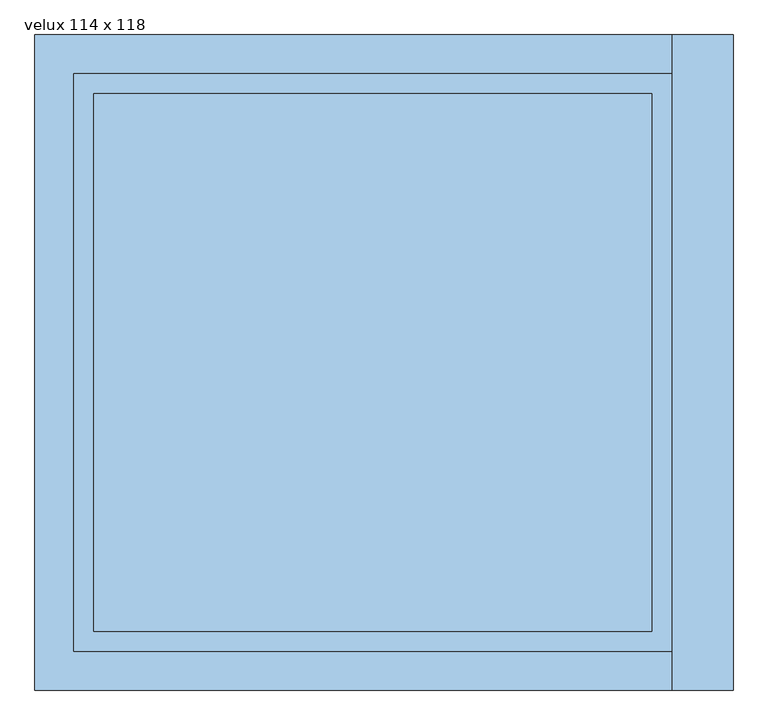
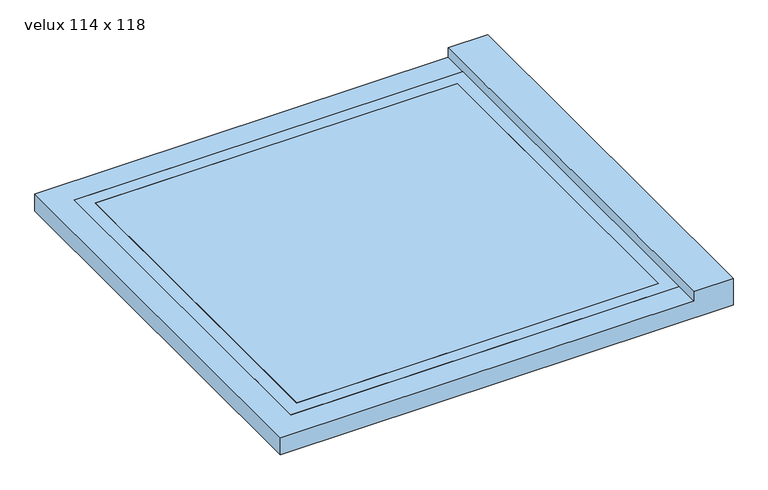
"""IFC4 building model written with IfcOpenShell, lengths in millimetres: window geometry, FR_Fenetre de Toit : velux 114 x 118."""

from ifc_helpers import new_model, si_unit, frame, origin, place, context, project, spatial, polyline, outline, extrude, faceted_brep, source, transform, mapped, element, save


def velux_114_x_118_b14f580e(model_context):
    return source(origin(), model_context, "Body", "SolidModel", [
        extrude(outline(polyline([(-550.0, 530.0), (550.0, 530.0), (550.0, -530.0), (-550.0, -530.0), (-550.0, 530.0)])), frame((0.0, 0.0, 3726.7088296), z_axis=(0.0, 0.0, 1.0), x_axis=(1.0, 0.0, 0.0)), (0.0, 0.0, 1.0), 11.2911704),
        extrude(outline(polyline([(-590.0, -570.0), (-590.0, 570.0), (590.0, 570.0), (590.0, -570.0), (-590.0, -570.0)]), holes=[polyline([(550.0, 530.0), (-550.0, 530.0), (-550.0, -530.0), (550.0, -530.0), (550.0, 530.0)])]), frame((0.0, 0.0, 3732.6), z_axis=(0.0, 0.0, 1.0), x_axis=(1.0, 0.0, 0.0)), (0.0, 0.0, 1.0), 5.4),
        faceted_brep([(710.0, -646.2, 3768.0), (710.0, 646.2, 3768.0), (590.0, 646.2, 3768.0), (590.0, -646.2, 3768.0), (710.0, -646.2, 3682.6), (710.0, 646.2, 3682.6), (-666.2, 646.2, 3682.6), (-666.2, 646.2, 3738.0), (590.0, 646.2, 3738.0), (590.0, 570.0, 3738.0), (590.0, 570.0, 3732.6), (590.0, 570.0, 3682.6), (590.0, -570.0, 3682.6), (590.0, -570.0, 3732.6), (590.0, -570.0, 3738.0), (590.0, -646.2, 3738.0), (-666.2, -646.2, 3738.0), (-666.2, -646.2, 3682.6), (-590.0, -570.0, 3738.0), (-590.0, 570.0, 3738.0), (-590.0, 570.0, 3682.6), (-590.0, -570.0, 3682.6), (-590.0, 570.0, 3732.6), (-590.0, -570.0, 3732.6)], [[[0, 1, 2, 3]], [[1, 0, 4, 5]], [[2, 1, 5, 6, 7, 8]], [[3, 2, 8, 9, 10, 11, 12, 13, 14, 15]], [[0, 3, 15, 16, 17, 4]], [[7, 16, 15, 14, 18, 19, 9, 8]], [[6, 5, 4, 17], [20, 21, 12, 11]], [[16, 7, 6, 17]], [[9, 19, 22, 20, 11, 10]], [[18, 14, 13, 12, 21, 23]], [[19, 18, 23, 21, 20, 22]]]),
    ])


if __name__ == "__main__":
    model = new_model("IFC4")
    model_context = context("Model", 3, world=origin())
    ifc_project = project(units=[si_unit("LENGTHUNIT", "METRE", prefix="MILLI")], contexts=[model_context])
    site = spatial("IfcSite", under=ifc_project)
    building = spatial("IfcBuilding", under=site)
    placement = place(None, origin())
    velux_114_x_118_shape = velux_114_x_118_b14f580e(model_context)
    element("IfcWindow", 1, ObjectType="FR_Fenetre de Toit : velux 114 x 118", at=placement, inside=building, context=model_context, shape_type="MappedRepresentation", body=[
        mapped(velux_114_x_118_shape, transform((0.0, 0.0, 0.0), x_axis=(1.0, 0.0, 0.0), y_axis=(0.0, 1.0, 0.0), z_axis=(0.0, 0.0, 1.0))),
    ])
    save(model, "model.ifc")
